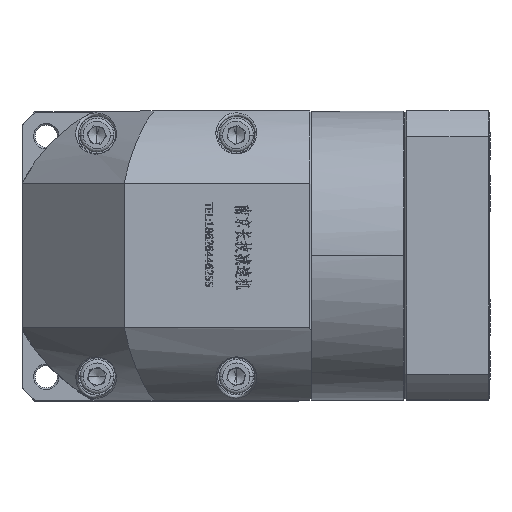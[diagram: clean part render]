
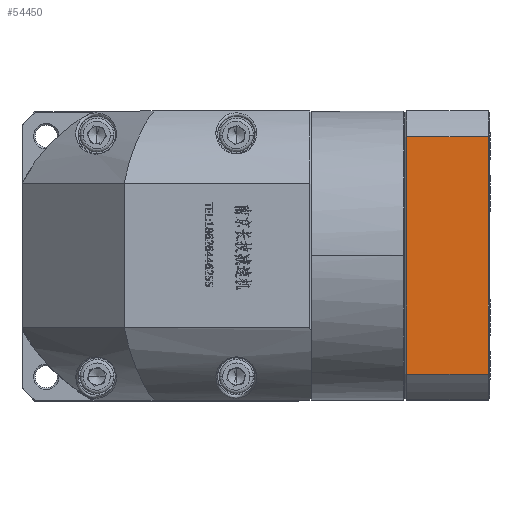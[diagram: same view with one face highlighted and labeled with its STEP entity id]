
A CAD part, top view. The second image highlights one B-rep face of the part: STEP entity #54450.
In plain terms, the highlighted planar face has unit normal (0, 0, 1).
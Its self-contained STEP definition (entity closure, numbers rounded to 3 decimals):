
#3839 = LINE ( 'NONE', #34713, #75949 ) ;
#7353 = DIRECTION ( 'NONE',  ( -1., 0., 0. ) ) ;
#8575 = EDGE_CURVE ( 'NONE', #29368, #23256, #102495, .T. ) ;
#11129 = LINE ( 'NONE', #49192, #83172 ) ;
#23256 = VERTEX_POINT ( 'NONE', #106561 ) ;
#26604 = VERTEX_POINT ( 'NONE', #46532 ) ;
#28318 = ORIENTED_EDGE ( 'NONE', *, *, #48367, .F. ) ;
#28338 = ORIENTED_EDGE ( 'NONE', *, *, #49869, .F. ) ;
#29368 = VERTEX_POINT ( 'NONE', #57759 ) ;
#29433 = EDGE_LOOP ( 'NONE', ( #28338, #48595, #65935, #28318 ) ) ;
#29952 = CARTESIAN_POINT ( 'NONE',  ( 100.132, 190.918, 58.635 ) ) ;
#32387 = LINE ( 'NONE', #29952, #64136 ) ;
#34713 = CARTESIAN_POINT ( 'NONE',  ( 100.132, 121.097, 58.635 ) ) ;
#37100 = DIRECTION ( 'NONE',  ( 0., 0., -1. ) ) ;
#40600 = EDGE_CURVE ( 'NONE', #29368, #26604, #32387, .T. ) ;
#41494 = DIRECTION ( 'NONE',  ( 0., -1., 0. ) ) ;
#43610 = DIRECTION ( 'NONE',  ( 1., 0., 0. ) ) ;
#46532 = CARTESIAN_POINT ( 'NONE',  ( 99.632, 190.918, 58.635 ) ) ;
#48367 = EDGE_CURVE ( 'NONE', #77555, #23256, #3839, .T. ) ;
#48595 = ORIENTED_EDGE ( 'NONE', *, *, #40600, .F. ) ;
#49192 = CARTESIAN_POINT ( 'NONE',  ( 99.632, 121.097, 58.635 ) ) ;
#49869 = EDGE_CURVE ( 'NONE', #26604, #77555, #11129, .T. ) ;
#54450 = ADVANCED_FACE ( 'NONE', ( #146771 ), #63726, .F. ) ;
#57759 = CARTESIAN_POINT ( 'NONE',  ( 75.632, 190.918, 58.635 ) ) ;
#63726 = PLANE ( 'NONE',  #110931 ) ;
#64136 = VECTOR ( 'NONE', #43610, 1000. ) ;
#65935 = ORIENTED_EDGE ( 'NONE', *, *, #8575, .T. ) ;
#75949 = VECTOR ( 'NONE', #7353, 1000. ) ;
#77555 = VERTEX_POINT ( 'NONE', #79073 ) ;
#79073 = CARTESIAN_POINT ( 'NONE',  ( 99.632, 121.097, 58.635 ) ) ;
#83172 = VECTOR ( 'NONE', #41494, 1000. ) ;
#87030 = CARTESIAN_POINT ( 'NONE',  ( 75.632, 121.097, 58.635 ) ) ;
#102495 = LINE ( 'NONE', #87030, #138416 ) ;
#106561 = CARTESIAN_POINT ( 'NONE',  ( 75.632, 121.097, 58.635 ) ) ;
#110931 = AXIS2_PLACEMENT_3D ( 'NONE', #118103, #37100, #131670 ) ;
#118103 = CARTESIAN_POINT ( 'NONE',  ( 100.132, 121.097, 58.635 ) ) ;
#131670 = DIRECTION ( 'NONE',  ( -1., 0., 0. ) ) ;
#138416 = VECTOR ( 'NONE', #140788, 1000. ) ;
#140788 = DIRECTION ( 'NONE',  ( 0., -1., 0. ) ) ;
#146771 = FACE_OUTER_BOUND ( 'NONE', #29433, .T. ) ;
